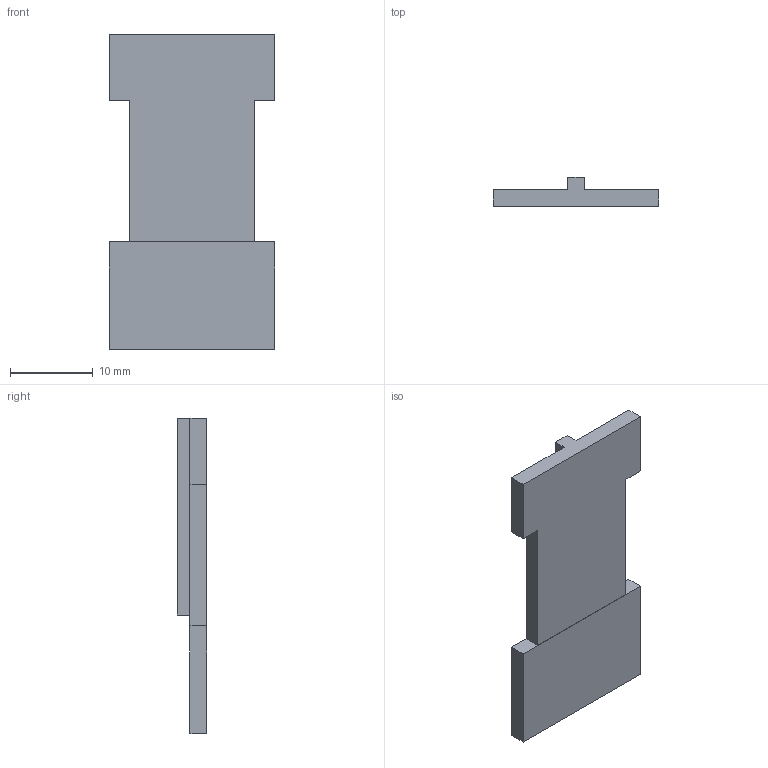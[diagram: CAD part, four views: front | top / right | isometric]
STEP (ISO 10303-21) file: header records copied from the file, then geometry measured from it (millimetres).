
FILE_DESCRIPTION (( 'STEP AP214' ), '1' );
FILE_NAME ('002350.STEP', '2022-02-21T08:18:00', ( '' ), ( '' ), 'SwSTEP 2.0', 'SolidWorks 2021', '' );
FILE_SCHEMA (( 'AUTOMOTIVE_DESIGN' ));
Length unit declared in the file: millimetre
Products named in the file (1): 002350
Bounding box: 20 x 3.5 x 38 mm (x, y, z)
Volume: 1421.1 mm3; surface area: 1739.1 mm2
Topology: 2 solids, 2 shells, 20 faces, 48 edges, 32 vertices
Faces by surface type: plane 20
Entity records: 615 total; most frequent: CARTESIAN_POINT 101, ORIENTED_EDGE 96, DIRECTION 90, EDGE_CURVE 48, VECTOR 48, LINE 48, VERTEX_POINT 32, AXIS2_PLACEMENT_3D 21
